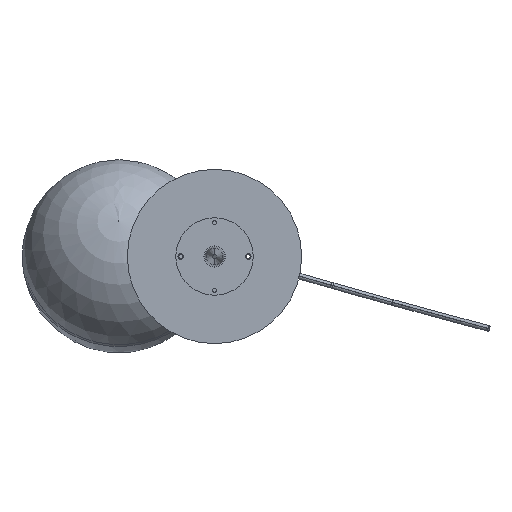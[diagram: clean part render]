
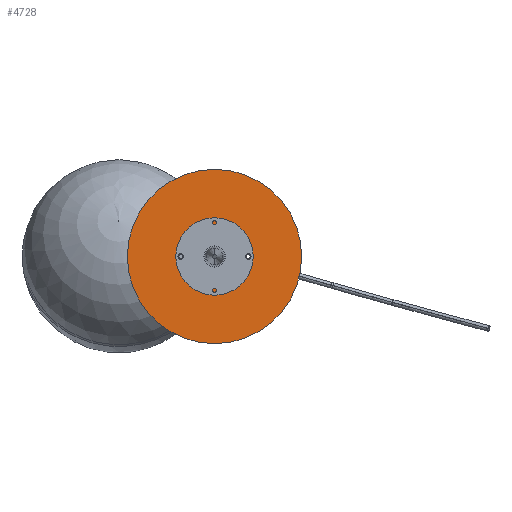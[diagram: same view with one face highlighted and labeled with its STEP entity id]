
A CAD part, front view. The second image highlights one B-rep face of the part: STEP entity #4728.
In plain terms, the highlighted planar face has unit normal (0, -1, 0) as drawn and (0, 1, 0) by its records, which use the part's own axes.
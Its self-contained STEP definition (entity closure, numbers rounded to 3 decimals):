
#52 = ORIENTED_EDGE ( 'NONE', *, *, #4105, .T. ) ;
#170 = EDGE_CURVE ( 'NONE', #4115, #2863, #545, .T. ) ;
#178 = ORIENTED_EDGE ( 'NONE', *, *, #4222, .F. ) ;
#225 = CARTESIAN_POINT ( 'NONE',  ( 0., 2., 0. ) ) ;
#251 = AXIS2_PLACEMENT_3D ( 'NONE', #7289, #7951, #2892 ) ;
#269 = DIRECTION ( 'NONE',  ( 0., 0., 1. ) ) ;
#333 = CIRCLE ( 'NONE', #850, 7. ) ;
#485 = EDGE_LOOP ( 'NONE', ( #2410, #7650 ) ) ;
#510 = DIRECTION ( 'NONE',  ( 0., 0., 1. ) ) ;
#526 = CARTESIAN_POINT ( 'NONE',  ( 0., 2., 0. ) ) ;
#545 = CIRCLE ( 'NONE', #3680, 2.75 ) ;
#566 = DIRECTION ( 'NONE',  ( 0., -1., 0. ) ) ;
#625 = EDGE_CURVE ( 'NONE', #5149, #5547, #1207, .T. ) ;
#627 = EDGE_LOOP ( 'NONE', ( #7850, #918 ) ) ;
#660 = VERTEX_POINT ( 'NONE', #5035 ) ;
#772 = EDGE_LOOP ( 'NONE', ( #178, #2573 ) ) ;
#782 = CIRCLE ( 'NONE', #5353, 90. ) ;
#808 = CARTESIAN_POINT ( 'NONE',  ( -35., 2., -2.75 ) ) ;
#850 = AXIS2_PLACEMENT_3D ( 'NONE', #526, #566, #3012 ) ;
#880 = DIRECTION ( 'NONE',  ( 0., 1., 0. ) ) ;
#918 = ORIENTED_EDGE ( 'NONE', *, *, #5902, .F. ) ;
#946 = DIRECTION ( 'NONE',  ( 0., 1., 0. ) ) ;
#1083 = DIRECTION ( 'NONE',  ( 0., 1., 0. ) ) ;
#1196 = DIRECTION ( 'NONE',  ( 0., 0., 1. ) ) ;
#1207 = CIRCLE ( 'NONE', #2639, 7. ) ;
#1619 = VERTEX_POINT ( 'NONE', #6045 ) ;
#1654 = PLANE ( 'NONE',  #2203 ) ;
#1818 = DIRECTION ( 'NONE',  ( 0., 0., 1. ) ) ;
#1951 = EDGE_CURVE ( 'NONE', #5547, #5149, #333, .T. ) ;
#1974 = CARTESIAN_POINT ( 'NONE',  ( 0., 2., -90. ) ) ;
#1976 = DIRECTION ( 'NONE',  ( 0., 1., 0. ) ) ;
#2143 = CARTESIAN_POINT ( 'NONE',  ( 35., 2., 0. ) ) ;
#2183 = DIRECTION ( 'NONE',  ( 0., 1., 0. ) ) ;
#2203 = AXIS2_PLACEMENT_3D ( 'NONE', #2395, #1083, #1818 ) ;
#2353 = FACE_BOUND ( 'NONE', #485, .T. ) ;
#2395 = CARTESIAN_POINT ( 'NONE',  ( 0., 2., 0. ) ) ;
#2410 = ORIENTED_EDGE ( 'NONE', *, *, #1951, .T. ) ;
#2505 = DIRECTION ( 'NONE',  ( 0., -1., 0. ) ) ;
#2573 = ORIENTED_EDGE ( 'NONE', *, *, #4711, .F. ) ;
#2639 = AXIS2_PLACEMENT_3D ( 'NONE', #6712, #2505, #1196 ) ;
#2716 = AXIS2_PLACEMENT_3D ( 'NONE', #5812, #946, #5156 ) ;
#2748 = AXIS2_PLACEMENT_3D ( 'NONE', #3296, #880, #5788 ) ;
#2863 = VERTEX_POINT ( 'NONE', #5755 ) ;
#2892 = DIRECTION ( 'NONE',  ( 0., 0., 1. ) ) ;
#3012 = DIRECTION ( 'NONE',  ( 0., 0., 1. ) ) ;
#3157 = VERTEX_POINT ( 'NONE', #1974 ) ;
#3296 = CARTESIAN_POINT ( 'NONE',  ( -35., 2., 0. ) ) ;
#3680 = AXIS2_PLACEMENT_3D ( 'NONE', #2143, #2183, #4042 ) ;
#3781 = CIRCLE ( 'NONE', #251, 2.75 ) ;
#3874 = CARTESIAN_POINT ( 'NONE',  ( 0., 2., -7. ) ) ;
#3879 = AXIS2_PLACEMENT_3D ( 'NONE', #4272, #4158, #510 ) ;
#4042 = DIRECTION ( 'NONE',  ( 0., 0., 1. ) ) ;
#4105 = EDGE_CURVE ( 'NONE', #660, #3157, #782, .T. ) ;
#4115 = VERTEX_POINT ( 'NONE', #4602 ) ;
#4158 = DIRECTION ( 'NONE',  ( 0., 1., 0. ) ) ;
#4190 = EDGE_LOOP ( 'NONE', ( #6344, #52 ) ) ;
#4222 = EDGE_CURVE ( 'NONE', #5123, #1619, #5619, .T. ) ;
#4272 = CARTESIAN_POINT ( 'NONE',  ( 35., 2., 0. ) ) ;
#4402 = CIRCLE ( 'NONE', #3879, 2.75 ) ;
#4602 = CARTESIAN_POINT ( 'NONE',  ( 35., 2., -2.75 ) ) ;
#4711 = EDGE_CURVE ( 'NONE', #1619, #5123, #3781, .T. ) ;
#4728 = ADVANCED_FACE ( 'NONE', ( #2353, #4851, #7418, #7252 ), #1654, .T. ) ;
#4851 = FACE_BOUND ( 'NONE', #627, .T. ) ;
#5035 = CARTESIAN_POINT ( 'NONE',  ( 0., 2., 90. ) ) ;
#5123 = VERTEX_POINT ( 'NONE', #808 ) ;
#5149 = VERTEX_POINT ( 'NONE', #3874 ) ;
#5156 = DIRECTION ( 'NONE',  ( 0., 0., 1. ) ) ;
#5353 = AXIS2_PLACEMENT_3D ( 'NONE', #225, #1976, #269 ) ;
#5547 = VERTEX_POINT ( 'NONE', #6357 ) ;
#5619 = CIRCLE ( 'NONE', #2748, 2.75 ) ;
#5755 = CARTESIAN_POINT ( 'NONE',  ( 35., 2., 2.75 ) ) ;
#5788 = DIRECTION ( 'NONE',  ( 0., 0., 1. ) ) ;
#5812 = CARTESIAN_POINT ( 'NONE',  ( 0., 2., 0. ) ) ;
#5902 = EDGE_CURVE ( 'NONE', #2863, #4115, #4402, .T. ) ;
#6045 = CARTESIAN_POINT ( 'NONE',  ( -35., 2., 2.75 ) ) ;
#6344 = ORIENTED_EDGE ( 'NONE', *, *, #7381, .T. ) ;
#6357 = CARTESIAN_POINT ( 'NONE',  ( 0., 2., 7. ) ) ;
#6500 = CIRCLE ( 'NONE', #2716, 90. ) ;
#6712 = CARTESIAN_POINT ( 'NONE',  ( 0., 2., 0. ) ) ;
#7252 = FACE_BOUND ( 'NONE', #772, .T. ) ;
#7289 = CARTESIAN_POINT ( 'NONE',  ( -35., 2., 0. ) ) ;
#7381 = EDGE_CURVE ( 'NONE', #3157, #660, #6500, .T. ) ;
#7418 = FACE_OUTER_BOUND ( 'NONE', #4190, .T. ) ;
#7650 = ORIENTED_EDGE ( 'NONE', *, *, #625, .T. ) ;
#7850 = ORIENTED_EDGE ( 'NONE', *, *, #170, .F. ) ;
#7951 = DIRECTION ( 'NONE',  ( 0., 1., 0. ) ) ;
